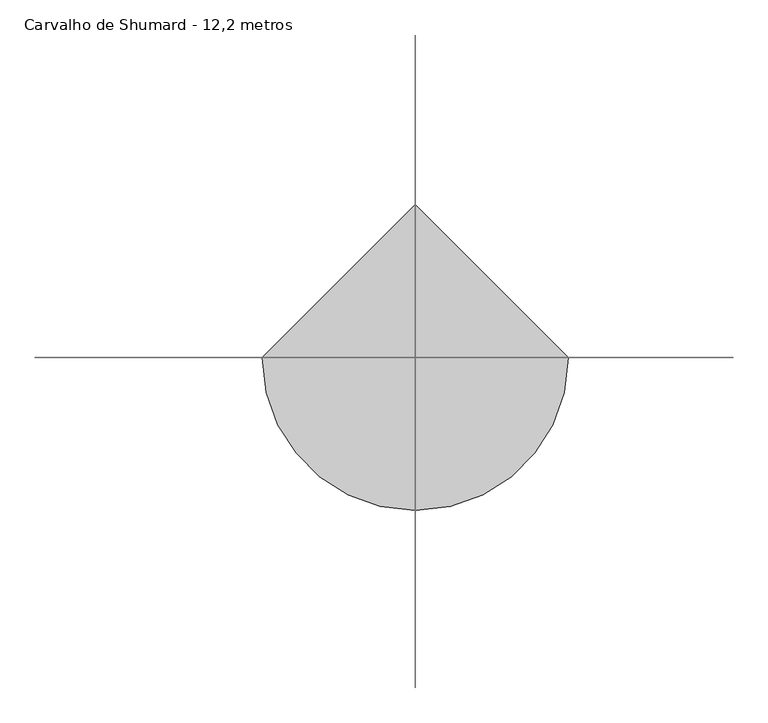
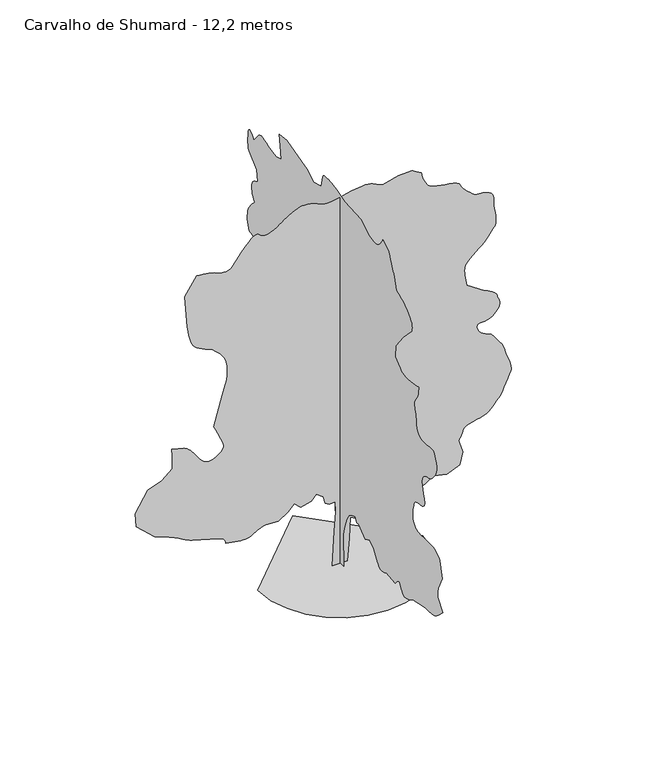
"""IFC4 building model written with IfcOpenShell, lengths in millimetres: geographic element geometry, RPC Árvore - Outono : Carvalho de Shumard - 12,2 metros."""

from ifc_helpers import new_model, si_unit, origin, place, context, project, spatial, triangles, source, transform, mapped, element, save


def carvalho_de_shumard_12_2_metros_a262d815(model_context):
    return source(origin(), model_context, "Body", "Tessellation", [
        triangles([(-0.0022625, 219.6430976, 0.0114771), (-0.0022625, -202.2794772, 0.0114771), (-0.0022625, -165.5900743, 1045.6450413), (-0.0022625, -238.9678628, 1357.501878), (-0.0022625, -349.0363624, 1651.0131775), (-0.0022625, -477.4462206, 1852.8008606), (-0.0022625, -624.2017977, 1944.5243317), (-0.0022625, -807.646269, 2017.9021202), (-0.0022625, -881.0241302, 1852.8008606), (-0.0022625, -1009.4364956, 1889.4897549), (-0.0022625, -1156.1920727, 1742.7340324), (-0.0022625, -1357.9797558, 1614.3242832), (-0.0022625, -1596.4563332, 1724.390966), (-0.0022625, -1816.5896988, 1577.6353889), (-0.0022625, -1963.347892, 1320.8129837), (-0.0022625, -1998.8599686, 1270.1093925), (-0.0022625, -2035.172723, 1221.8152473), (-0.0022625, -2073.0917747, 1178.3350525), (-0.0022625, -2113.4178017, 1142.073167), (-0.0022625, -2156.9513363, 1115.4391096), (-0.0022625, -2204.4982887, 1100.8397827), (-0.0022625, -2256.8565754, 1100.6771473), (-0.0022625, -2307.0772018, 1109.6110497), (-0.0022625, -2348.6333862, 1120.4664917), (-0.0022625, -2382.9686451, 1132.928231), (-0.0022625, -2411.5294018, 1146.673613), (-0.0022625, -2435.7565567, 1161.3821629), (-0.0022625, -2457.0962425, 1176.7312986), (-0.0022625, -2476.9897957, 1192.4006184), (-0.0022625, -2953.9455666, 1137.368585), (-0.0022625, -3000.966243, 1191.6508095), (-0.0022625, -3046.9957008, 1241.4419563), (-0.0022625, -3091.1191704, 1282.250948), (-0.0022625, -3132.3701408, 1309.5814018), (-0.0022625, -3169.7582657, 1318.9398422), (-0.0022625, -3202.3167435, 1305.8375896), (-0.0022625, -3229.1060966, 1265.7784069), (-0.0022625, -3256.0221863, 1208.176763), (-0.0022625, -3289.3434082, 1148.6509632), (-0.0022625, -3328.7392593, 1092.0151033), (-0.0022625, -3373.9553947, 1043.0779741), (-0.0022625, -3424.5851532, 1006.655924), (-0.0022625, -3480.3747711, 987.5629761), (-0.0022625, -3540.9678749, 990.6103918), (-0.0022625, -3601.7135857, 1008.4757984), (-0.0022625, -3658.6214493, 1030.1891533), (-0.0022625, -3712.3268921, 1055.1127047), (-0.0022625, -3763.4650497, 1082.6007797), (-0.0022625, -3812.6716393, 1112.0180248), (-0.0022625, -3860.5820869, 1142.7162237), (-0.0022625, -3907.8568176, 1174.0574793), (-0.0022625, -4568.2572052, 1302.4673012), (-0.0022625, -4650.6324097, 1302.6274658), (-0.0022625, -4731.8637886, 1303.7507984), (-0.0022625, -4810.8586761, 1306.8009029), (-0.0022625, -4886.4732468, 1312.7355698), (-0.0022625, -4957.6142532, 1322.5236351), (-0.0022625, -5023.1381607, 1337.1228893), (-0.0022625, -5081.9014343, 1357.501878), (-0.0022625, -5138.5299545, 1386.9699921), (-0.0022625, -5198.0553909, 1427.0265587), (-0.0022625, -5259.9957962, 1475.9103481), (-0.0022625, -5323.8680603, 1531.8524277), (-0.0022625, -5389.1634933, 1593.0911316), (-0.0022625, -5455.4245651, 1657.8578178), (-0.0022625, -5522.1681656, 1724.390966), (-0.0022625, -5265.3588409, 2017.9021202), (-0.0022625, -5257.7087265, 2072.8807411), (-0.0022625, -5251.3288834, 2127.5393234), (-0.0022625, -5247.5419052, 2181.5572472), (-0.0022625, -5247.5924835, 2234.6118576), (-0.0022625, -5252.7776321, 2286.3829708), (-0.0022625, -5264.3932022, 2336.5504028), (-0.0022625, -5283.6844666, 2384.7910629), (-0.0022625, -5485.4924973, 2806.7071701), (-0.0022625, -5357.0619644, 3320.3516899), (-0.0022625, -5347.0224609, 3334.5342545), (-0.0022625, -5317.0562668, 3370.8544212), (-0.0022625, -5267.544754, 3419.9848526), (-0.0022625, -5198.7675568, 3472.673497), (-0.0022625, -5111.054306, 3519.5671463), (-0.0022625, -5004.7369583, 3551.3887505), (-0.0022625, -4880.1189835, 3558.8359703), (-0.0022625, -4741.2681564, 3553.0662643), (-0.0022625, -4598.2742683, 3550.8041931), (-0.0022625, -4460.38908, 3551.1346962), (-0.0022625, -4336.9405106, 3553.0662643), (-0.0022625, -4237.2564789, 3555.6332588), (-0.0022625, -4170.614035, 3557.8700409), (-0.0022625, -4146.341098, 3558.8359703), (-0.0022625, -4132.1076645, 3568.5196815), (-0.0022625, -4095.4317055, 3595.8424324), (-0.0022625, -4045.2591866, 3638.2628082), (-0.0022625, -3990.588105, 3693.1882347), (-0.0022625, -3940.4411659, 3758.0514267), (-0.0022625, -3903.7393364, 3830.3106789), (-0.0022625, -3889.5061935, 3907.3739983), (-0.0022625, -3892.2002151, 3984.3864487), (-0.0022625, -3899.6727242, 4058.5266907), (-0.0022625, -3911.1609764, 4130.2522545), (-0.0022625, -3925.8772293, 4200.0465408), (-0.0022625, -3943.0081604, 4268.3917877), (-0.0022625, -3961.7148674, 4335.7711052), (-0.0022625, -3981.2346062, 4402.667894), (-0.0022625, -3997.2725807, 4422.2640816), (-0.0022625, -4015.2421234, 4441.35187), (-0.0022625, -4037.0750931, 4459.4740196), (-0.0022625, -4064.677478, 4476.1727097), (-0.0022625, -4099.9558479, 4490.9142517), (-0.0022625, -4144.8923492, 4503.2922752), (-0.0022625, -4201.3679718, 4512.7472214), (-0.0022625, -4269.6626404, 4518.5166367), (-0.0022625, -4343.4215103, 4525.252272), (-0.0022625, -4414.6136765, 4540.6545296), (-0.0022625, -4475.2067802, 4572.4255554), (-0.0022625, -4517.1952057, 4628.2657516), (-0.0022625, -4532.5213051, 4715.8769737), (-0.0022625, -4513.2300407, 4842.9346252), (-0.0022625, -4473.7071625, 4986.5892288), (-0.0022625, -4437.3869957, 5118.3747894), (-0.0022625, -4409.7337418, 5237.654718), (-0.0022625, -4396.2118927, 5343.7435913), (-0.0022625, -4402.2612328, 5436.0571426), (-0.0022625, -4433.3200928, 5513.9332031), (-0.0022625, -4494.8794167, 5576.7125107), (-0.0022625, -4570.3413803, 5620.6830826), (-0.0022625, -4640.3641411, 5647.6500412), (-0.0022625, -4706.1929718, 5665.2896622), (-0.0022625, -4769.1501755, 5681.3276367), (-0.0022625, -4830.4804436, 5703.465239), (-0.0022625, -4891.5054977, 5739.4299042), (-0.0022625, -4953.4970627, 5796.846167), (-0.0022625, -5016.6571609, 5869.9184509), (-0.0022625, -5076.9197617, 5947.7950928), (-0.0022625, -5129.1764557, 6030.7807251), (-0.0022625, -5168.2670929, 6119.2555573), (-0.0022625, -5189.0838455, 6213.4753876), (-0.0022625, -5186.4654007, 6313.8198441), (-0.0022625, -5155.2795135, 6420.5697235), (-0.0022625, -5117.6376251, 6521.5501877), (-0.0022625, -5092.1699936, 6603.8998123), (-0.0022625, -5068.6342209, 6667.0093323), (-0.0022625, -5036.7617477, 6710.2177414), (-0.0022625, -4986.2845963, 6732.9146118), (-0.0022625, -4906.908046, 6734.4145203), (-0.0022625, -4788.3905708, 6714.0808777), (-0.0022625, -4647.7857811, 6691.613063), (-0.0022625, -4512.6454834, 6687.1139191), (-0.0022625, -4388.3835915, 6700.6101883), (-0.0022625, -4280.5154663, 6732.0507111), (-0.0022625, -4194.4803108, 6781.4604858), (-0.0022625, -4135.6914574, 6848.8656738), (-0.0022625, -4109.6395592, 6934.214534), (-0.0022625, -4100.7183014, 7025.3583893), (-0.0022625, -4089.8654755, 7110.7072495), (-0.0022625, -4077.385714, 7191.2529144), (-0.0022625, -4063.6609703, 7267.9348618), (-0.0022625, -4048.9447174, 7341.7448914), (-0.0022625, -4033.5930382, 7413.6230621), (-0.0022625, -4017.9364357, 7484.5350128), (-0.0022625, -4002.6864944, 7535.6737518), (-0.0022625, -3990.3337601, 7586.9642258), (-0.0022625, -3983.7510223, 7638.5854935), (-0.0022625, -3985.8351974, 7690.6642914), (-0.0022625, -3999.483783, 7743.4035141), (-0.0022625, -4027.5436981, 7796.9310608), (-0.0022625, -4072.9633095, 7851.4242462), (-0.0022625, -4121.5091835, 7918.2951645), (-0.0022625, -4158.2107224, 8002.1446976), (-0.0022625, -4184.6184128, 8093.0600784), (-0.0022625, -4202.3847702, 8181.1029602), (-0.0022625, -4213.0852798, 8256.2855804), (-0.0022625, -4218.3210068, 8308.7201706), (-0.0022625, -4219.7188866, 8328.392807), (-0.0022625, -4192.65019, 8322.3431763), (-0.0022625, -4120.0348549, 8306.9917877), (-0.0022625, -4014.6575661, 8286.5058289), (-0.0022625, -3889.4044556, 8265.0798111), (-0.0022625, -3757.0854973, 8246.830925), (-0.0022625, -3630.5615341, 8235.9775177), (-0.0022625, -3522.6172508, 8236.6641037), (-0.0022625, -3431.498394, 8252.5491806), (-0.0022625, -3346.123954, 8282.871167), (-0.0022625, -3265.5788704, 8325.2406738), (-0.0022625, -3188.8969231, 8377.2177338), (-0.0022625, -3115.0868935, 8436.4385376), (-0.0022625, -3043.2087227, 8500.4375381), (-0.0022625, -2972.2964813, 8566.876506), (-0.0022625, -2990.6471054, 8952.1163635), (-0.0022625, -3394.2122978, 9465.761174), (-0.0022625, -3852.8299438, 9942.7035736), (-0.0022625, -3859.9975296, 10001.8488007), (-0.0022625, -3862.9964745, 10062.1369812), (-0.0022625, -3857.6337204, 10124.6622345), (-0.0022625, -3839.7659157, 10190.5419342), (-0.0022625, -3805.2247101, 10260.9201965), (-0.0022625, -3749.8164642, 10336.9155579), (-0.0022625, -3669.3728279, 10419.6721344), (-0.0022625, -3575.0262611, 10499.1754211), (-0.0022625, -3480.7049835, 10566.1992371), (-0.0022625, -3386.3587074, 10622.777179), (-0.0022625, -3292.0121407, 10671.0172577), (-0.0022625, -3197.6655739, 10713.0053925), (-0.0022625, -3103.3190071, 10750.825177), (-0.0022625, -3008.9724403, 10786.535788), (-0.0022625, -2981.4465042, 10880.6288818), (-0.0022625, -2953.7423813, 10973.0941681), (-0.0022625, -2925.7077553, 11062.3573242), (-0.0022625, -2897.1903099, 11146.8172852), (-0.0022625, -2868.0627274, 11224.8462433), (-0.0022625, -2838.0965332, 11294.8431335), (-0.0022625, -2807.1899895, 11355.2324707), (-0.0022625, -2772.9028381, 11421.0621735), (-0.0022625, -2735.1083427, 11502.2932617), (-0.0022625, -2696.9580551, 11589.6507202), (-0.0022625, -2661.7305542, 11673.779306), (-0.0022625, -2632.5776825, 11745.3784241), (-0.0022625, -2612.7274406, 11795.1695709), (-0.0022625, -2605.4075386, 11813.8509888), (-0.0022625, -2293.5479404, 11997.2828156), (-0.0022625, -2277.555748, 11965.6638153), (-0.0022625, -2259.9598743, 11933.1053375), (-0.0022625, -2239.1538769, 11898.6155823), (-0.0022625, -2213.5363998, 11861.2271667), (-0.0022625, -2181.5012913, 11819.9761963), (-0.0022625, -2141.4421085, 11773.9464478), (-0.0022625, -2091.7577866, 11722.1217041), (-0.0022625, -2031.9117302, 11677.2360718), (-0.0022625, -1963.4012318, 11650.6760651), (-0.0022625, -1887.6698078, 11639.3151306), (-0.0022625, -1806.1612656, 11640.1790314), (-0.0022625, -1720.3217377, 11650.1935364), (-0.0022625, -1631.594886, 11666.2820892), (-0.0022625, -1541.4242271, 11685.4204559), (-0.0022625, -1137.8463902, 11960.5804047), (-0.0022625, -257.3128368, 12015.6328583), (-0.0022625, -143.5556361, 12046.9216461), (-0.0022625, -31.2426242, 12077.2430511), (-0.0022625, 78.1820465, 12105.6331787), (-0.0022625, 183.2749686, 12131.1513885), (-0.0022625, 282.5921986, 12152.8070435), (-0.0022625, 374.6893387, 12169.6583405), (-0.0022625, 458.1194206, 12180.7390594), (-0.0022625, 540.3752283, 12189.1780792), (-0.0022625, 626.4842165, 12196.675296), (-0.0022625, 711.3070913, 12199.9797455), (-0.0022625, 789.7123346, 12195.9137146), (-0.0022625, 856.5631233, 12181.2739105), (-0.0022625, 906.7304827, 12152.8070435), (-0.0022625, 935.0776623, 12107.3365631), (-0.0022625, 1026.7985899, 11740.4729095), (-0.0022625, 1430.3764996, 11630.3935822), (-0.0022625, 1797.2654423, 11850.5266571), (-0.0022625, 2255.8780014, 11960.5804047), (-0.0022625, 2861.2512245, 12144.0378113), (-0.0022625, 3264.8164169, 12089.0109375), (-0.0022625, 3228.1401672, 11740.4729095), (-0.0022625, 3154.7623787, 11336.882428), (-0.0022625, 3448.2735329, 11245.1531433), (-0.0022625, 3741.784687, 11300.1811798), (-0.0022625, 3855.2699112, 11342.8297394), (-0.0022625, 3965.7050308, 11381.7424805), (-0.0022625, 4070.0405228, 11413.310321), (-0.0022625, 4165.2509903, 11433.7962799), (-0.0022625, 4248.2619118, 11439.5145355), (-0.0022625, 4316.0226013, 11426.7804291), (-0.0022625, 4365.4832451, 11391.9093018), (-0.0022625, 4640.6437752, 11061.7213165), (-0.0022625, 4703.1684471, 11134.820343), (-0.0022625, 4763.4566277, 11198.46297), (-0.0022625, 4819.2209564, 11243.1707062), (-0.0022625, 4868.274939, 11259.4883148), (-0.0022625, 4908.3317963, 11237.9349792), (-0.0022625, 4937.1538742, 11169.0566254), (-0.0022625, 4952.5058441, 11043.3712738), (-0.0022625, 4957.156723, 10903.7832825), (-0.0022625, 4956.038768, 10795.9654449), (-0.0022625, 4950.1164551, 10714.6064575), (-0.0022625, 4940.305426, 10654.4461761), (-0.0022625, 4927.6480591, 10610.169809), (-0.0022625, 4913.0338348, 10576.467215), (-0.0022625, 4897.478389, 10548.0770874), (-0.0022625, 4475.5625725, 10199.5134796), (-0.0022625, 4438.8610336, 9814.2997833), (-0.0022625, 4497.5481491, 9790.3826385), (-0.0022625, 4554.4304329, 9764.5586334), (-0.0022625, 4607.8053726, 9734.8726547), (-0.0022625, 4655.8937164, 9699.416098), (-0.0022625, 4696.9159218, 9656.2588486), (-0.0022625, 4729.118898, 9603.4684662), (-0.0022625, 4750.7231026, 9539.1136734), (-0.0022625, 4758.958065, 9468.3790375), (-0.0022625, 4753.7223381, 9397.6194031), (-0.0022625, 4737.2521225, 9326.8591873), (-0.0022625, 4711.7847816, 9256.0995529), (-0.0022625, 4679.5818054, 9185.3393372), (-0.0022625, 4642.9058464, 9114.5797028), (-0.0022625, 4603.9675255, 9043.819487), (-0.0022625, 4662.6799301, 8984.827739), (-0.0022625, 4719.9688751, 8925.6830933), (-0.0022625, 4774.3606133, 8866.2082352), (-0.0022625, 4824.4313942, 8806.250267), (-0.0022625, 4868.7068893, 8745.6574539), (-0.0022625, 4905.7645111, 8684.2763168), (-0.0022625, 4934.1546387, 8621.9039612), (-0.0022625, 4954.5388596, 8561.1582504), (-0.0022625, 4969.1536652, 8504.2500961), (-0.0022625, 4978.9391144, 8450.5446533), (-0.0022625, 4984.8608459, 8399.4064957), (-0.0022625, 4987.9112411, 8350.2001968), (-0.0022625, 4989.0291962, 8302.2897491), (-0.0022625, 4989.2070923, 8255.0147278), (-0.0022625, 4879.1277649, 7943.1529495), (-0.0022625, 4828.0657654, 7934.9685654), (-0.0022625, 4777.130793, 7924.8784836), (-0.0022625, 4726.5519035, 7910.8991043), (-0.0022625, 4676.4302536, 7891.1758896), (-0.0022625, 4626.9696098, 7863.7258209), (-0.0022625, 4578.2967087, 7826.6681992), (-0.0022625, 4530.5897369, 7778.046167), (-0.0022625, 4487.1525627, 7720.3508514), (-0.0022625, 4450.476313, 7657.8255981), (-0.0022625, 4419.3918732, 7591.3104721), (-0.0022625, 4392.8059959, 7521.5670547), (-0.0022625, 4369.6007263, 7449.4092499), (-0.0022625, 4348.6319481, 7375.6503799), (-0.0022625, 4328.8069954, 7301.103186), (-0.0022625, 4285.8529312, 7242.111438), (-0.0022625, 4244.6781189, 7182.9667923), (-0.0022625, 4207.0106506, 7123.4919342), (-0.0022625, 4174.6553581, 7063.5339661), (-0.0022625, 4149.3656227, 7002.941153), (-0.0022625, 4132.8956978, 6941.534436), (-0.0022625, 4126.9989647, 6879.1876602), (-0.0022625, 4145.3498795, 6383.8684753), (-0.0022625, 4188.3039436, 6379.5472275), (-0.0022625, 4229.478756, 6372.8121735), (-0.0022625, 4267.1462242, 6361.2477631), (-0.0022625, 4299.5018074, 6342.4901871), (-0.0022625, 4324.7912521, 6314.0744797), (-0.0022625, 4341.2611771, 6273.6618301), (-0.0022625, 4347.1323303, 6218.7872726), (-0.0022625, 4345.5312653, 6155.3475403), (-0.0022625, 4341.0579918, 6090.9671677), (-0.0022625, 4334.1444603, 6025.7734726), (-0.0022625, 4325.3249405, 5959.9187714), (-0.0022625, 4315.0566719, 5893.6071213), (-0.0022625, 4303.8224739, 5826.9646774), (-0.0022625, 4292.1054565, 5760.1699173), (-0.0022625, 4273.7545418, 5393.2806839), (-0.0022625, 4622.3181496, 5411.631308), (-0.0022625, 5007.5327179, 5485.0093872), (-0.0022625, 5089.5265503, 5457.2541046), (-0.0022625, 5168.1403564, 5428.0506546), (-0.0022625, 5240.0441071, 5395.949707), (-0.0022625, 5301.8060349, 5359.5275116), (-0.0022625, 5350.0978546, 5317.3359009), (-0.0022625, 5381.5383774, 5267.9261261), (-0.0022625, 5392.7725754, 5209.8232773), (-0.0022625, 5389.5698639, 5136.2423035), (-0.0022625, 5380.5721573, 5043.3956451), (-0.0022625, 5366.7968353, 4934.5104309), (-0.0022625, 5349.1322159, 4812.790535), (-0.0022625, 5328.5956787, 4681.4372154), (-0.0022625, 5306.1272827, 4543.6537651), (-0.0022625, 5282.7182465, 4402.667894), (-0.0022625, 5117.6120453, 3962.400872), (-0.0022625, 5027.4338287, 3911.8219826), (-0.0022625, 4938.704361, 3864.2673271), (-0.0022625, 4852.8723907, 3822.8128807), (-0.0022625, 4771.3613777, 3790.5084572), (-0.0022625, 4695.6453598, 3770.4038704), (-0.0022625, 4627.1219261, 3765.5492249), (-0.0022625, 4567.2659866, 3778.9693359), (-0.0022625, 4053.6211761, 3999.1027016), (-0.0022625, 3539.9766563, 3833.9962097), (-0.0022625, 3173.0877136, 3577.1865944), (-0.0022625, 2806.1987709, 3026.8405357), (-0.0022625, 2770.6916359, 2972.1438744), (-0.0022625, 2734.3967583, 2919.353492), (-0.0022625, 2696.4752357, 2870.4012474), (-0.0022625, 2656.139035, 2827.2437073), (-0.0022625, 2612.6004135, 2791.7874413), (-0.0022625, 2565.0713379, 2765.9643082), (-0.0022625, 2512.700116, 2751.6800056), (-0.0022625, 2460.4463287, 2746.9270981), (-0.0022625, 2411.4048454, 2747.2828903), (-0.0022625, 2362.0407074, 2751.1971863), (-0.0022625, 2308.8259323, 2757.0174706), (-0.0022625, 2248.2300671, 2763.1682579), (-0.0022625, 2176.7229492, 2768.0484833), (-0.0022625, 2090.7765965, 2770.0309204), (-0.0022625, 1998.5727768, 2763.0668106), (-0.0022625, 1910.2194489, 2743.5976501), (-0.0022625, 1825.0763901, 2713.7076141), (-0.0022625, 1742.5003258, 2675.4555885), (-0.0022625, 1661.8482719, 2630.9766174), (-0.0022625, 1582.4797153, 2582.3037163), (-0.0022625, 1503.7542881, 2531.54664), (-0.0022625, 1393.6876053, 2219.6898033), (-0.0022625, 1081.8332394, 1871.1465431), (-0.0022625, 1038.7799807, 1824.5095642), (-0.0022625, 988.9862904, 1778.8358986), (-0.0022625, 933.5780445, 1733.9627655), (-0.0022625, 873.678721, 1689.7327618), (-0.0022625, 810.4091091, 1645.9857227), (-0.0022625, 744.8926867, 1602.5563969), (-0.0022625, 678.2553297, 1559.2895611), (-0.0022625, 568.1886469, 1944.5243317), (-0.0022625, 384.7416321, 2201.3465916), (-0.0022625, 311.3663507, 2036.245332), (-0.0022625, 256.3317375, 1779.4229267), (-0.0022625, 237.9877991, 1320.8129837), (-0.0022625, 201.2983961, 678.7560259), (227.2985896, 0.0005818, 0.0290512), (-249.6563274, 0.0005818, 0.0290512), (-176.2792837, 0.0005163, 1100.6948788), (-139.5901351, 0.0004777, 1742.7519093), (-157.9345822, 0.0004581, 2072.9519577), (-341.3808703, 0.0004592, 2054.608746), (-469.7907286, 0.000455, 2127.9865345), (-524.8227983, 0.0004406, 2366.4631119), (-744.9587437, 0.0004319, 2513.218689), (-891.7143208, 0.0004417, 2348.1174294), (-1221.9118984, 0.0004473, 2256.3964291), (-1423.7020523, 0.0004364, 2439.8409004), (-1625.4897354, 0.0004483, 2238.0507465), (-1919.0008896, 0.0004592, 2054.608746), (-2359.270237, 0.0004581, 2072.9519577), (-2579.4062187, 0.0004637, 1981.2284866), (-2626.6812401, 0.0004658, 1946.0925499), (-2674.5913971, 0.0004679, 1912.3976589), (-2723.7979866, 0.0004697, 1881.5927078), (-2774.9361443, 0.0004711, 1855.1187424), (-2828.6415871, 0.0004725, 1834.4220406), (-2885.5241615, 0.0004732, 1820.9436481), (-2946.2951614, 0.0004735, 1816.1296978), (-3014.004982, 0.0004735, 1818.2698288), (-3090.3820061, 0.0004732, 1824.2579807), (-3173.9771942, 0.0004725, 1833.4587273), (-3263.3420883, 0.0004718, 1845.2241428), (-3357.0279396, 0.0004711, 1858.9160397), (-3453.6362869, 0.00047, 1873.8915791), (-3551.6683846, 0.0004693, 1889.5074863), (-3556.192527, 0.0004669, 1928.7100353), (-3564.4527786, 0.0004644, 1967.2696003), (-3580.0588028, 0.0004623, 2004.5482841), (-3606.7461273, 0.0004602, 2039.9001961), (-3648.2005737, 0.0004581, 2072.6851135), (-3708.0823837, 0.0004564, 2102.2599072), (-3790.1270851, 0.000455, 2127.9865345), (-4597.2827591, 0.0004406, 2366.4631119), (-4663.1883293, 0.0004396, 2387.3759342), (-4733.5668823, 0.0004378, 2416.9507278), (-4806.1822174, 0.0004357, 2452.6229691), (-4878.822551, 0.0004333, 2491.825518), (-4949.2013947, 0.0004308, 2531.9913803), (-5015.1066742, 0.0004287, 2570.5611191), (-5074.2513199, 0.0004266, 2604.9500084), (-5137.8433685, 0.0004245, 2637.9915962), (-5216.8385468, 0.0004224, 2673.9306816), (-5308.668988, 0.00042, 2712.2844452), (-5410.7674072, 0.0004179, 2752.5441971), (-5520.5671005, 0.0004154, 2794.2782776), (-5635.5013641, 0.0004126, 2836.9527077), (-5753.0023315, 0.0004101, 2880.1102478), (-6321.6740158, 0.0003783, 3412.1056824), (-6358.3502655, 0.000352, 3852.3724136), (-5973.1354065, 0.0003149, 4476.0709717), (-5532.8686752, 0.0003051, 4641.1774635), (-5202.6562729, 0.0002886, 4916.3377029), (-5202.6562729, 0.0002637, 5338.2538101), (-5221.006897, 0.0002504, 5558.3868851), (-4835.7670395, 0.000256, 5466.6837616), (-4792.4063141, 0.0002578, 5438.7000046), (-4748.2066864, 0.0002595, 5407.9972275), (-4702.4315735, 0.0002616, 5371.8546661), (-4654.2414917, 0.0002641, 5327.5027222), (-4602.8489891, 0.0002676, 5272.2723724), (-4547.4407433, 0.0002718, 5203.3928558), (-4487.2290115, 0.0002767, 5118.1201538), (-4426.2036667, 0.000282, 5028.5523651), (-4367.4148132, 0.0002869, 4949.5571869), (-4308.6515396, 0.0002907, 4882.7624268), (-4247.6264854, 0.0002939, 4829.7432793), (-4182.1022873, 0.0002963, 4792.1522598), (-4109.8427444, 0.0002974, 4771.564563), (-4028.6113655, 0.0002974, 4769.5821259), (-3939.7801598, 0.0002963, 4789.9154778), (-3850.3138184, 0.0002939, 4831.0902901), (-3766.2863892, 0.0002904, 4887.032515), (-3693.823661, 0.0002865, 4951.641362), (-3638.9999725, 0.0002827, 5018.8174942), (-3607.915242, 0.0002788, 5082.4607025), (-3606.6952583, 0.0002756, 5136.4713593), (-3628.2994629, 0.0002721, 5194.8788406), (-3660.5024391, 0.0002676, 5273.4920654), (-3701.5246445, 0.0002616, 5368.9571686), (-3749.5876991, 0.0002553, 5477.9179596), (-3802.9626389, 0.0002483, 5596.9694138), (-3859.8702118, 0.0002406, 5722.7565033), (-3918.5573273, 0.0002329, 5851.8980392), (-3661.7224228, 0.0001772, 6787.4845367), (-3626.5966599, 0.0001709, 6893.3699341), (-3592.8940659, 0.0001646, 6997.8321625), (-3562.0892601, 0.0001587, 7099.3968933), (-3535.6051208, 0.0001527, 7196.6159592), (-3514.9159767, 0.0001475, 7288.064447), (-3501.4449966, 0.0001422, 7372.2953522), (-3496.6159309, 0.000138, 7447.884343), (-3497.8612038, 0.0001334, 7521.6182144), (-3501.9789757, 0.0001289, 7599.875647), (-3509.6293808, 0.000124, 7680.3701523), (-3521.4478455, 0.0001191, 7760.8646576), (-3538.0703773, 0.0001145, 7839.0970917), (-3560.1574013, 0.00011, 7912.8559616), (-3588.3446342, 0.0001061, 7979.8541977), (-3624.613932, 0.0001023, 8042.2265533), (-3669.5251442, 9.88e-05, 8103.6332703), (-3721.6801003, 9.53e-05, 8164.2266647), (-3779.6047623, 9.14e-05, 8224.1846329), (-3841.8500908, 8.79e-05, 8283.6339111), (-3906.9926262, 8.44e-05, 8342.8035553), (-3973.584201, 8.09e-05, 8401.7958847), (-4079.2667038, 7.85e-05, 8445.1054504), (-4182.2040253, 7.57e-05, 8488.8987076), (-4279.7021439, 7.32e-05, 8533.6826019), (-4369.0414581, 7.04e-05, 8579.8902466), (-4447.4264992, 6.76e-05, 8628.0291687), (-4512.213533, 6.44e-05, 8678.5574799), (-4560.6068001, 6.13e-05, 8731.9832886), (-4598.6809296, 5.71e-05, 8803.226033), (-4633.8828506, 5.15e-05, 8899.8090912), (-4665.5265587, 4.48e-05, 9011.1592712), (-4693.0272057, 3.78e-05, 9126.6778015), (-4715.6990776, 3.12e-05, 9235.7914902), (-4732.931456, 2.59e-05, 9327.8759857), (-4744.0383362, 2.21e-05, 9392.3830948), (-4817.4161247, -3.92e-05, 10419.6721344), (-4450.527182, -7.32e-05, 10988.3444), (-4352.4953751, -7.25e-05, 10976.4241974), (-4255.9123169, -7.18e-05, 10963.6900909), (-4162.2011765, -7.08e-05, 10949.3549194), (-4072.8362823, -6.97e-05, 10932.6303589), (-3989.2410942, -6.86e-05, 10912.6792511), (-3912.8893593, -6.72e-05, 10888.7109467), (-3845.1795387, -6.55e-05, 10859.939447), (-3776.3258926, -6.37e-05, 10832.1330048), (-3698.8306229, -6.27e-05, 10812.6644257), (-3617.497506, -6.2e-05, 10803.1336121), (-3537.1047386, -6.23e-05, 10805.1660461), (-3462.5069664, -6.3e-05, 10820.3651184), (-3398.482386, -6.48e-05, 10850.3063141), (-3349.8603539, -6.76e-05, 10896.6406952), (-3056.3491997, -9.07e-05, 11281.8555542), (-2977.9641586, -9.6e-05, 11371.601239), (-2900.8246811, -0.0001012, 11457.3320526), (-2826.2777779, -0.0001058, 11535.0552155), (-2755.5687218, -0.0001096, 11600.7326019), (-2689.9939453, -0.0001128, 11650.3714325), (-2630.8492996, -0.0001145, 11679.9300934), (-2579.4062187, -0.0001149, 11685.4460358), (-2538.0075829, -0.0001138, 11671.6445526), (-2504.3128372, -0.0001124, 11649.1761566), (-2472.5444275, -0.000111, 11622.8696228), (-2436.9256714, -0.0001096, 11597.5293091), (-2391.6790146, -0.0001082, 11577.9339935), (-2331.0324257, -0.0001079, 11568.9612854), (-2249.2035542, -0.0001082, 11575.3667084), (-2151.4359753, -0.00011, 11603.1975677), (-2051.1038727, -0.0001124, 11649.6086884), (-1954.619791, -0.0001159, 11706.3133667), (-1868.4065941, -0.0001194, 11764.9237427), (-1798.8794426, -0.0001226, 11817.1298584), (-1752.4584389, -0.0001247, 11854.542691), (-1735.5564182, -0.0001257, 11868.8778625), (-1714.8597164, -0.0001264, 11882.1456573), (-1659.8251396, -0.0001285, 11916.5842529), (-1581.0462273, -0.0001313, 11964.1894867), (-1489.1092518, -0.0001345, 12016.9292908), (-1394.6076073, -0.0001373, 12066.7715973), (-1308.1275661, -0.0001398, 12105.7099182), (-1240.2575809, -0.0001408, 12125.7121857), (-1175.8645638, -0.0001412, 12130.1607513), (-1095.7488144, -0.0001412, 12127.5167267), (-1004.4014832, -0.0001405, 12117.5289642), (-906.3136477, -0.0001394, 12099.8126038), (-805.9815451, -0.000138, 12074.090918), (-707.8936369, -0.0001359, 12040.0336945), (-616.5463057, -0.0001334, 11997.3083954), (-519.3684073, -0.0001313, 11962.4361053), (-402.9373964, -0.0001306, 11949.7019989), (-270.4608533, -0.0001306, 11955.4214172), (-125.1499373, -0.000132, 11975.9073761), (29.7882844, -0.0001338, 12007.4496368), (191.1444556, -0.0001362, 12046.386795), (355.7107369, -0.0001387, 12089.0109375), (469.3052567, -0.0001398, 12104.4134857), (580.4953812, -0.0001405, 12117.9091736), (686.8715916, -0.0001412, 12127.5167267), (786.0294926, -0.0001412, 12131.3804443), (875.5569494, -0.0001412, 12127.5167267), (953.0548353, -0.0001401, 12114.0466187), (1016.1109428, -0.0001387, 12089.0109375), (1069.0029179, -0.0001369, 12059.7057495), (1118.0467993, -0.0001355, 12034.2631165), (1163.8806295, -0.0001341, 12011.9981964), (1207.1498634, -0.0001331, 11992.3261414), (1248.4900726, -0.000132, 11974.5597839), (1288.54911, -0.000131, 11958.089859), (1327.9653088, -0.0001299, 11942.2559418), (1804.9209343, -0.0001376, 12070.6853119), (2226.8445992, -0.0001387, 12089.0109375), (2520.3557533, -0.0001289, 11923.9303162), (2524.5799141, -0.0001264, 11880.4934326), (2530.5708275, -0.0001236, 11835.9380127), (2540.0891418, -0.0001208, 11789.14552), (2554.9045166, -0.000118, 11738.9730011), (2576.7883553, -0.0001145, 11684.3274994), (2607.4661339, -0.000111, 11624.0393188), (2648.768264, -0.0001072, 11557.0410828), (2690.2735794, -0.0001033, 11495.6855255), (2724.713047, -0.0001009, 11450.3929413), (2758.5170883, -9.88e-05, 11416.9705627), (2798.0908356, -9.7e-05, 11391.248877), (2849.8644196, -9.6e-05, 11369.0339539), (2920.2432632, -9.46e-05, 11346.2097656), (3015.6572067, -9.28e-05, 11318.5568024), (3133.2599121, -9.14e-05, 11291.9200562), (3260.1649567, -9e-05, 11271.7143127), (3387.7310074, -8.9e-05, 11253.0840546), (3507.2655716, -8.76e-05, 11231.2760834), (3610.1011551, -8.58e-05, 11201.437207), (3687.5964249, -8.34e-05, 11158.7374878), (3731.0841774, -7.99e-05, 11098.4237274), (3763.2362846, -7.57e-05, 11028.1977814), (3810.7909401, -7.15e-05, 10958.9368927), (3871.1552788, -6.72e-05, 10890.4899078), (3941.8134659, -6.34e-05, 10822.6533508), (4020.1729271, -5.92e-05, 10755.3249023), (4103.6410881, -5.53e-05, 10688.3266663), (4189.7018234, -5.11e-05, 10621.4551666), (4310.7357147, -5.04e-05, 10609.0512726), (4426.788224, -4.97e-05, 10592.9627197), (4532.9026772, -4.83e-05, 10569.4781067), (4624.0721123, -4.62e-05, 10534.9371918), (4695.3657257, -4.31e-05, 10485.6285736), (4741.8018448, -3.92e-05, 10417.8675934), (4758.3735077, -3.4e-05, 10327.9440125), (4759.4408844, -2.84e-05, 10234.3090302), (4762.4401199, -2.35e-05, 10156.0510162), (4767.0404205, -1.96e-05, 10090.6538452), (4772.9371536, -1.65e-05, 10035.5258148), (4779.7742363, -1.37e-05, 9988.0728973), (4787.2467453, -1.09e-05, 9945.7789673), (4795.0750465, -8.8e-06, 9906.0279053), (4810.4267258, -3.2e-06, 9812.0115509), (4823.5163338, 2.5e-06, 9719.9020569), (4832.1323776, 7.7e-06, 9631.6556992), (4834.0133675, 1.26e-05, 9549.2037552), (4826.8966507, 1.72e-05, 9474.4280869), (4808.5457359, 2.1e-05, 9409.2855515), (4776.7241318, 2.42e-05, 9355.7074265), (4736.1338768, 2.73e-05, 9304.3146332), (4692.3156212, 3.08e-05, 9245.5263611), (4644.3545952, 3.47e-05, 9180.9680923), (4591.2337097, 3.85e-05, 9112.2414734), (4532.0384857, 4.27e-05, 9040.9475693), (4465.7771233, 4.73e-05, 8968.6880264), (4391.484565, 5.15e-05, 8897.0894897), (4305.2203537, 5.6e-05, 8823.2288818), (4209.0183769, 6.06e-05, 8744.2337036), (4110.8595428, 6.55e-05, 8661.7061829), (4018.8259163, 7.04e-05, 8577.2723831), (3940.8984055, 7.57e-05, 8492.4822098), (3885.1090782, 8.06e-05, 8409.0140488), (3859.4891304, 8.55e-05, 8328.4178055), (3855.3716492, 9e-05, 8248.7116241), (3858.0148018, 9.49e-05, 8167.0985825), (3866.2497643, 9.98e-05, 8083.8844757), (3878.9582909, 0.0001051, 7999.3745178), (3895.0724236, 0.00011, 7913.9239197), (3913.3977585, 0.0001152, 7827.8123154), (3932.8669189, 0.0001205, 7741.3954971), (4483.2129776, 0.0001422, 7374.5068451), (4504.5375481, 0.0001429, 7364.9754501), (4559.5900017, 0.0001443, 7338.7706543), (4634.8232002, 0.0001468, 7299.400383), (4716.8173233, 0.0001496, 7250.4225586), (4792.075811, 0.0001531, 7195.3195267), (4847.1029755, 0.0001562, 7137.6747894), (4868.4528351, 0.0001597, 7080.9956909), (4879.890509, 0.0001629, 7027.4425644), (4906.0947235, 0.000166, 6973.9150177), (4934.8662231, 0.0001695, 6915.8889084), (4954.0051712, 0.0001737, 6848.8656738), (4951.3367294, 0.0001783, 6768.3711685), (4914.6604797, 0.0001842, 6669.9324097), (4831.7512962, 0.0001916, 6549.0002563), (4717.4018806, 0.0001975, 6446.0879333), (4599.8500443, 0.0002007, 6392.9417587), (4487.1272736, 0.0002021, 6371.8715332), (4387.2144768, 0.0002024, 6365.2376358), (4308.1687202, 0.0002031, 6355.4016083), (4257.996492, 0.0002049, 6324.6982498), (4244.7289879, 0.0002091, 6255.4891022), (4263.8167763, 0.000214, 6169.1740219), (4303.1361786, 0.0002182, 6097.2958511), (4359.2815887, 0.0002221, 6037.439621), (4428.9232681, 0.0002249, 5987.2165237), (4508.6806091, 0.0002273, 5944.2115906), (4595.1480057, 0.0002298, 5906.0360138), (4684.9957191, 0.0002319, 5870.2492447), (4774.7925636, 0.0002385, 5756.6619919), (4860.9041679, 0.0002452, 5645.4647095), (4939.6194214, 0.0002515, 5539.0962021), (5007.2786636, 0.0002574, 5439.9458588), (5060.1702026, 0.000263, 5350.4030685), (5094.6099609, 0.0002676, 5272.9077988), (5106.9115356, 0.0002711, 5209.8488571), (5121.9077133, 0.0002756, 5134.4377625), (5159.3461258, 0.0002823, 5026.6205063), (5207.9937378, 0.0002897, 4898.9021393), (5256.6663483, 0.0002977, 4763.8127106), (5294.1053421, 0.0003054, 4633.8572708), (5309.0753586, 0.0003124, 4521.541452), (5290.3689423, 0.0003173, 4439.394722), (5246.880899, 0.0003219, 4358.2647903), (5196.3525879, 0.0003285, 4248.566835), (5140.6647079, 0.0003362, 4122.169899), (5081.7746979, 0.0003439, 3990.9947662), (5021.6132538, 0.0003513, 3866.8599014), (4962.0878174, 0.0003576, 3761.6605087), (4905.1290848, 0.0003622, 3687.2659218), (4849.898735, 0.0003657, 3628.324752), (4793.3466637, 0.0003695, 3563.9446701), (4734.2531776, 0.0003734, 3497.6071495), (4671.3215538, 0.0003772, 3432.8965645), (4603.2303612, 0.0003807, 3373.3199684), (4528.7343269, 0.0003839, 3322.4102852), (4446.5114388, 0.000386, 3283.6754402), (4349.3438232, 0.0003877, 3254.9545189), (4237.4087952, 0.0003895, 3229.1313858), (4120.6449921, 0.0003909, 3202.3423233), (4009.0404671, 0.0003926, 3170.7239044), (3912.5082779, 0.0003951, 3130.4641525), (3840.9858994, 0.0003982, 3077.6737701), (3804.4619659, 0.0004024, 3008.5152008), (3784.8913582, 0.0004066, 2939.2040245), (3760.1864708, 0.0004098, 2885.2953964), (3734.1851509, 0.0004122, 2841.9852493), (3710.7764053, 0.0004147, 2804.419519), (3693.7472122, 0.0004168, 2767.8450073), (3687.0118675, 0.0004193, 2727.4070686), (3694.4082184, 0.0004221, 2678.3277969), (3804.4619659, 0.0004431, 2329.7742176), (3712.7335533, 0.0004669, 1926.1963806), (3309.1683609, 0.0004767, 1761.0975918), (2905.5778793, 0.0004714, 1852.8185921), (2502.0100708, 0.0004865, 1595.9963322), (2208.4987713, 0.0004767, 1761.0975918), (1786.5752518, 0.0004658, 1944.5395924), (1758.9270847, 0.0004669, 1928.4431911), (1730.4731529, 0.0004679, 1910.0975086), (1700.4153946, 0.0004693, 1887.2606758), (1667.9532772, 0.0004711, 1857.6858822), (1632.2785652, 0.0004732, 1819.1237011), (1592.5955223, 0.0004763, 1769.3325542), (1548.0986744, 0.0004802, 1706.063015), (1501.4616955, 0.000484, 1639.5832066), (1455.7880299, 0.0004876, 1580.8072884), (1410.9175129, 0.0004907, 1528.449147), (1366.6875092, 0.0004935, 1481.2223785), (1322.937854, 0.000496, 1437.8490086), (1279.5109989, 0.0004984, 1397.0426331), (1236.2443085, 0.0005009, 1357.5197548), (1291.2764145, 0.000524, 972.2850569), (1259.6683147, 0.0005247, 960.6798059), (1227.0969017, 0.000525, 950.1954168), (1192.6014055, 0.0005257, 941.9604544), (1155.2186583, 0.0005261, 937.0931643), (1113.9827305, 0.0005261, 936.7195679), (1067.9328524, 0.0005257, 941.9604544), (1016.1109428, 0.000525, 953.9393017), (962.1463589, 0.0005236, 973.9422232), (910.1083288, 0.0005222, 1001.6463461), (859.6741253, 0.0005201, 1035.7681005), (810.5234917, 0.0005177, 1075.0241346), (762.3360987, 0.0005152, 1118.1307331), (714.7917624, 0.0005124, 1163.8043987), (667.5651392, 0.0005096, 1210.7615616), (319.0192992, 0.0004988, 1394.2086491), (282.3329484, 0.000539, 715.4627243), (-2557.3444839, 0.0, 0.0), (-2489.7390175, -585.9752066, 0.0), (-2297.1926308, -1124.0985374, 0.0), (-1995.1237141, -1598.9547272, 0.0), (-1598.9547272, -1995.1237141, 0.0), (-1124.0985374, -2297.19016, 0.0), (-585.9752066, -2489.7390175, 0.0), (0.0001118, -2557.3444839, 0.0), (585.9752066, -2489.7390175, 0.0), (1124.0985374, -2297.1926308, 0.0), (1598.9547272, -1995.1237141, 0.0), (1995.1237141, -1598.9547272, 0.0), (2297.1926308, -1124.0985374, 0.0), (2489.7390175, -585.9752066, 0.0), (2557.3444839, 0.0002235, 0.0), (-0.0003354, 2557.3444839, 0.0)], [[407, 408, 409], [173, 174, 175], [406, 407, 409], [219, 220, 221], [1, 2, 3], [414, 1, 3], [413, 414, 3], [413, 3, 4], [412, 413, 4], [412, 4, 5], [255, 256, 257], [219, 221, 222], [65, 66, 67], [405, 406, 409], [8, 9, 10], [219, 222, 223], [404, 405, 409], [64, 65, 67], [412, 5, 6], [411, 412, 6], [403, 404, 409], [219, 223, 224], [172, 173, 175], [172, 175, 176], [171, 172, 176], [171, 176, 177], [170, 171, 177], [254, 255, 257], [254, 257, 258], [402, 403, 409], [63, 64, 67], [218, 219, 224], [401, 402, 409], [218, 224, 225], [217, 218, 225], [312, 313, 314], [216, 217, 225], [216, 225, 226], [170, 177, 178], [169, 170, 178], [168, 169, 178], [167, 168, 178], [167, 178, 179], [166, 167, 179], [166, 179, 180], [165, 166, 180], [11, 12, 13], [216, 226, 227], [215, 216, 227], [400, 401, 409], [400, 409, 410], [399, 400, 410], [29, 30, 31], [62, 63, 67], [214, 215, 227], [214, 227, 228], [410, 411, 6], [410, 6, 7], [165, 180, 181], [164, 165, 181], [312, 314, 315], [61, 62, 67], [213, 214, 228], [60, 61, 67], [59, 60, 67], [58, 59, 67], [57, 58, 67], [56, 57, 67], [55, 56, 67], [54, 55, 67], [53, 54, 67], [52, 53, 67], [52, 67, 68], [52, 68, 69], [253, 254, 258], [252, 253, 258], [29, 31, 32], [271, 272, 273], [271, 273, 274], [270, 271, 274], [270, 274, 275], [269, 270, 275], [268, 269, 275], [268, 275, 276], [268, 276, 277], [268, 277, 278], [268, 278, 279], [268, 279, 280], [268, 280, 281], [268, 281, 282], [268, 282, 283], [267, 268, 283], [266, 267, 283], [265, 266, 283], [264, 265, 283], [263, 264, 283], [262, 263, 283], [261, 262, 283], [260, 261, 283], [259, 260, 283], [259, 283, 284], [52, 69, 70], [212, 213, 228], [212, 228, 229], [211, 212, 229], [210, 211, 229], [209, 210, 229], [208, 209, 229], [10, 11, 13], [163, 164, 181], [163, 181, 182], [312, 315, 316], [51, 52, 70], [51, 70, 71], [51, 71, 72], [207, 208, 229], [207, 229, 230], [206, 207, 230], [366, 367, 368], [74, 75, 76], [74, 76, 77], [74, 77, 78], [74, 78, 79], [74, 79, 80], [74, 80, 81], [74, 81, 82], [74, 82, 83], [74, 83, 84], [74, 84, 85], [74, 85, 86], [73, 74, 86], [73, 86, 87], [73, 87, 88], [72, 73, 88], [51, 72, 88], [51, 88, 89], [51, 89, 90], [51, 90, 91], [51, 91, 92], [51, 92, 93], [50, 51, 93], [49, 50, 93], [48, 49, 93], [47, 48, 93], [46, 47, 93], [45, 46, 93], [44, 45, 93], [43, 44, 93], [42, 43, 93], [41, 42, 93], [40, 41, 93], [39, 40, 93], [38, 39, 93], [37, 38, 93], [36, 37, 93], [35, 36, 93], [35, 93, 94], [34, 35, 94], [34, 94, 95], [34, 95, 96], [33, 34, 96], [205, 206, 230], [258, 259, 284], [252, 258, 284], [29, 32, 33], [29, 33, 96], [29, 96, 97], [311, 312, 316], [190, 191, 192], [190, 192, 193], [190, 193, 194], [190, 194, 195], [190, 195, 196], [190, 196, 197], [190, 197, 198], [190, 198, 199], [190, 199, 200], [190, 200, 201], [190, 201, 202], [190, 202, 203], [190, 203, 204], [190, 204, 205], [189, 190, 205], [189, 205, 230], [189, 230, 231], [189, 231, 232], [189, 232, 233], [189, 233, 234], [410, 7, 8], [310, 311, 316], [310, 316, 317], [309, 310, 317], [308, 309, 317], [307, 308, 317], [306, 307, 317], [305, 306, 317], [304, 305, 317], [303, 304, 317], [302, 303, 317], [302, 317, 318], [301, 302, 318], [300, 301, 318], [299, 300, 318], [299, 318, 319], [298, 299, 319], [298, 319, 320], [162, 163, 182], [366, 368, 369], [298, 320, 321], [366, 369, 370], [366, 370, 371], [366, 371, 372], [366, 372, 373], [366, 373, 374], [366, 374, 375], [365, 366, 375], [364, 365, 375], [363, 364, 375], [362, 363, 375], [361, 362, 375], [360, 361, 375], [359, 360, 375], [358, 359, 375], [357, 358, 375], [356, 357, 375], [355, 356, 375], [354, 355, 375], [353, 354, 375], [352, 353, 375], [351, 352, 375], [350, 351, 375], [350, 375, 376], [234, 235, 236], [189, 234, 236], [188, 189, 236], [188, 236, 237], [188, 237, 238], [188, 238, 239], [188, 239, 240], [188, 240, 241], [188, 241, 242], [188, 242, 243], [188, 243, 244], [188, 244, 245], [188, 245, 246], [188, 246, 247], [188, 247, 248], [188, 248, 249], [188, 249, 250], [188, 250, 251], [188, 251, 252], [188, 252, 284], [187, 188, 284], [187, 284, 285], [187, 285, 286], [187, 286, 287], [187, 287, 288], [187, 288, 289], [187, 289, 290], [187, 290, 291], [187, 291, 292], [187, 292, 293], [187, 293, 294], [187, 294, 295], [187, 295, 296], [187, 296, 297], [187, 297, 298], [187, 298, 321], [187, 321, 322], [187, 322, 323], [187, 323, 324], [187, 324, 325], [187, 325, 326], [187, 326, 327], [187, 327, 328], [187, 328, 329], [187, 329, 330], [187, 330, 331], [187, 331, 332], [187, 332, 333], [187, 333, 334], [187, 334, 335], [186, 187, 335], [185, 186, 335], [184, 185, 335], [183, 184, 335], [182, 183, 335], [162, 182, 335], [161, 162, 335], [160, 161, 335], [159, 160, 335], [158, 159, 335], [157, 158, 335], [156, 157, 335], [155, 156, 335], [154, 155, 335], [153, 154, 335], [152, 153, 335], [151, 152, 335], [150, 151, 335], [350, 376, 377], [142, 143, 144], [142, 144, 145], [141, 142, 145], [141, 145, 146], [140, 141, 146], [140, 146, 147], [139, 140, 147], [138, 139, 147], [137, 138, 147], [136, 137, 147], [135, 136, 147], [134, 135, 147], [133, 134, 147], [133, 147, 148], [132, 133, 148], [131, 132, 148], [130, 131, 148], [129, 130, 148], [128, 129, 148], [127, 128, 148], [127, 148, 149], [126, 127, 149], [125, 126, 149], [125, 149, 150], [125, 150, 335], [124, 125, 335], [123, 124, 335], [122, 123, 335], [121, 122, 335], [120, 121, 335], [119, 120, 335], [118, 119, 335], [117, 118, 335], [116, 117, 335], [115, 116, 335], [114, 115, 335], [113, 114, 335], [112, 113, 335], [111, 112, 335], [110, 111, 335], [109, 110, 335], [108, 109, 335], [107, 108, 335], [106, 107, 335], [105, 106, 335], [104, 105, 335], [103, 104, 335], [102, 103, 335], [101, 102, 335], [100, 101, 335], [99, 100, 335], [98, 99, 335], [97, 98, 335], [29, 97, 335], [28, 29, 335], [27, 28, 335], [26, 27, 335], [25, 26, 335], [25, 335, 336], [25, 336, 337], [25, 337, 338], [349, 350, 377], [339, 340, 341], [338, 339, 341], [338, 341, 342], [338, 342, 343], [338, 343, 344], [338, 344, 345], [338, 345, 346], [348, 349, 377], [347, 348, 377], [346, 347, 377], [338, 346, 377], [20, 21, 22], [19, 20, 22], [19, 22, 23], [18, 19, 23], [17, 18, 23], [17, 23, 24], [17, 24, 25], [16, 17, 25], [15, 16, 25], [14, 15, 25], [14, 25, 338], [13, 14, 338], [10, 13, 338], [8, 10, 338], [8, 338, 377], [410, 8, 377], [398, 399, 410], [398, 410, 377], [397, 398, 377], [396, 397, 377], [395, 396, 377], [394, 395, 377], [393, 394, 377], [393, 377, 378], [392, 393, 378], [391, 392, 378], [390, 391, 378], [389, 390, 378], [389, 378, 379], [389, 379, 380], [388, 389, 380], [388, 380, 381], [387, 388, 381], [387, 381, 382], [386, 387, 382], [386, 382, 383], [385, 386, 383], [384, 385, 383], [472, 473, 474], [415, 416, 417], [793, 415, 417], [792, 793, 417], [792, 417, 418], [776, 777, 778], [776, 778, 779], [776, 779, 780], [776, 780, 781], [776, 781, 782], [776, 782, 783], [776, 783, 784], [776, 784, 785], [776, 785, 786], [776, 786, 787], [776, 787, 788], [776, 788, 789], [443, 444, 445], [471, 472, 474], [471, 474, 475], [471, 475, 476], [471, 476, 477], [471, 477, 478], [471, 478, 479], [471, 479, 480], [471, 480, 481], [471, 481, 482], [776, 789, 790], [776, 790, 791], [539, 540, 541], [759, 760, 761], [471, 482, 483], [424, 425, 426], [423, 424, 426], [539, 541, 542], [613, 614, 615], [756, 757, 758], [756, 758, 759], [755, 756, 759], [539, 542, 543], [538, 539, 543], [538, 543, 544], [538, 544, 545], [538, 545, 546], [538, 546, 547], [538, 547, 548], [538, 548, 549], [538, 549, 550], [754, 755, 759], [471, 483, 484], [538, 550, 551], [537, 538, 551], [443, 445, 446], [792, 418, 419], [536, 537, 551], [535, 536, 551], [534, 535, 551], [533, 534, 551], [532, 533, 551], [531, 532, 551], [530, 531, 551], [529, 530, 551], [528, 529, 551], [527, 528, 551], [526, 527, 551], [525, 526, 551], [524, 525, 551], [524, 551, 552], [523, 524, 552], [522, 523, 552], [522, 552, 553], [521, 522, 553], [520, 521, 553], [519, 520, 553], [613, 615, 616], [420, 421, 422], [419, 420, 422], [612, 613, 616], [612, 616, 617], [612, 617, 618], [612, 618, 619], [776, 791, 792], [776, 792, 419], [775, 776, 419], [774, 775, 419], [773, 774, 419], [772, 773, 419], [771, 772, 419], [770, 771, 419], [769, 770, 419], [768, 769, 419], [767, 768, 419], [766, 767, 419], [765, 766, 419], [764, 765, 419], [466, 467, 468], [466, 468, 469], [466, 469, 470], [465, 466, 470], [464, 465, 470], [463, 464, 470], [462, 463, 470], [461, 462, 470], [461, 470, 471], [461, 471, 484], [461, 484, 485], [461, 485, 486], [460, 461, 486], [459, 460, 486], [459, 486, 487], [458, 459, 487], [457, 458, 487], [456, 457, 487], [455, 456, 487], [454, 455, 487], [453, 454, 487], [452, 453, 487], [451, 452, 487], [451, 487, 488], [451, 488, 489], [450, 451, 489], [450, 489, 490], [449, 450, 490], [449, 490, 491], [449, 491, 492], [448, 449, 492], [518, 519, 553], [518, 553, 554], [611, 612, 619], [611, 619, 620], [611, 620, 621], [448, 492, 493], [754, 759, 761], [754, 761, 762], [753, 754, 762], [752, 753, 762], [501, 502, 503], [611, 621, 622], [763, 764, 419], [447, 448, 493], [517, 518, 554], [500, 501, 503], [611, 622, 623], [762, 763, 419], [762, 419, 422], [752, 762, 422], [751, 752, 422], [750, 751, 422], [749, 750, 422], [748, 749, 422], [747, 748, 422], [747, 422, 423], [427, 428, 429], [517, 554, 555], [426, 427, 429], [517, 555, 556], [516, 517, 556], [516, 556, 557], [516, 557, 558], [516, 558, 559], [516, 559, 560], [516, 560, 561], [516, 561, 562], [516, 562, 563], [516, 563, 564], [516, 564, 565], [516, 565, 566], [516, 566, 567], [516, 567, 568], [516, 568, 569], [516, 569, 570], [516, 570, 571], [515, 516, 571], [515, 571, 572], [514, 515, 572], [514, 572, 573], [442, 443, 446], [442, 446, 447], [442, 447, 493], [441, 442, 493], [440, 441, 493], [439, 440, 493], [438, 439, 493], [437, 438, 493], [436, 437, 493], [435, 436, 493], [434, 435, 493], [433, 434, 493], [432, 433, 493], [431, 432, 493], [430, 431, 493], [429, 430, 493], [426, 429, 493], [426, 493, 494], [423, 426, 494], [423, 494, 495], [747, 423, 495], [747, 495, 496], [746, 747, 496], [746, 496, 497], [746, 497, 498], [746, 498, 499], [746, 499, 500], [746, 500, 503], [746, 503, 504], [746, 504, 505], [746, 505, 506], [746, 506, 507], [746, 507, 508], [746, 508, 509], [746, 509, 510], [746, 510, 511], [746, 511, 512], [745, 746, 512], [745, 512, 513], [745, 513, 514], [745, 514, 573], [745, 573, 574], [745, 574, 575], [745, 575, 576], [745, 576, 577], [745, 577, 578], [745, 578, 579], [745, 579, 580], [745, 580, 581], [745, 581, 582], [745, 582, 583], [745, 583, 584], [745, 584, 585], [745, 585, 586], [745, 586, 587], [745, 587, 588], [745, 588, 589], [745, 589, 590], [745, 590, 591], [745, 591, 592], [745, 592, 593], [745, 593, 594], [745, 594, 595], [745, 595, 596], [745, 596, 597], [745, 597, 598], [745, 598, 599], [745, 599, 600], [745, 600, 601], [745, 601, 602], [745, 602, 603], [745, 603, 604], [745, 604, 605], [745, 605, 606], [745, 606, 607], [745, 607, 608], [745, 608, 609], [745, 609, 610], [745, 610, 611], [745, 611, 623], [745, 623, 624], [745, 624, 625], [745, 625, 626], [745, 626, 627], [745, 627, 628], [745, 628, 629], [745, 629, 630], [745, 630, 631], [745, 631, 632], [745, 632, 633], [745, 633, 634], [745, 634, 635], [745, 635, 636], [712, 713, 714], [647, 648, 649], [646, 647, 649], [645, 646, 649], [645, 649, 650], [644, 645, 650], [644, 650, 651], [643, 644, 651], [643, 651, 652], [642, 643, 652], [642, 652, 653], [642, 653, 654], [642, 654, 655], [642, 655, 656], [642, 656, 657], [642, 657, 658], [642, 658, 659], [642, 659, 660], [642, 660, 661], [642, 661, 662], [642, 662, 663], [642, 663, 664], [642, 664, 665], [642, 665, 666], [642, 666, 667], [642, 667, 668], [642, 668, 669], [642, 669, 670], [642, 670, 671], [642, 671, 672], [641, 642, 672], [641, 672, 673], [640, 641, 673], [640, 673, 674], [639, 640, 674], [639, 674, 675], [638, 639, 675], [637, 638, 675], [637, 675, 676], [636, 637, 676], [690, 691, 692], [690, 692, 693], [689, 690, 693], [688, 689, 693], [725, 726, 727], [725, 727, 728], [724, 725, 728], [724, 728, 729], [723, 724, 729], [723, 729, 730], [722, 723, 730], [722, 730, 731], [721, 722, 731], [721, 731, 732], [721, 732, 733], [721, 733, 734], [721, 734, 735], [721, 735, 736], [721, 736, 737], [721, 737, 738], [721, 738, 739], [721, 739, 740], [721, 740, 741], [721, 741, 742], [721, 742, 743], [721, 743, 744], [721, 744, 745], [720, 721, 745], [719, 720, 745], [718, 719, 745], [717, 718, 745], [716, 717, 745], [715, 716, 745], [714, 715, 745], [712, 714, 745], [711, 712, 745], [710, 711, 745], [709, 710, 745], [708, 709, 745], [707, 708, 745], [687, 688, 693], [636, 676, 677], [687, 693, 694], [686, 687, 694], [685, 686, 694], [685, 694, 695], [685, 695, 696], [685, 696, 697], [685, 697, 698], [685, 698, 699], [685, 699, 700], [685, 700, 701], [685, 701, 702], [685, 702, 703], [685, 703, 704], [684, 685, 704], [684, 704, 705], [684, 705, 706], [706, 707, 745], [684, 706, 745], [683, 684, 745], [682, 683, 745], [681, 682, 745], [680, 681, 745], [636, 677, 678], [745, 636, 678], [745, 678, 679], [680, 745, 679], [808, 809, 794], [807, 808, 794], [807, 794, 795], [806, 807, 795], [806, 795, 796], [806, 796, 797], [805, 806, 797], [804, 805, 797], [804, 797, 798], [804, 798, 799], [804, 799, 800], [804, 800, 801], [804, 801, 802], [804, 802, 803]], closed=False),
    ])


if __name__ == "__main__":
    model = new_model("IFC4")
    model_context = context("Model", 3, world=origin())
    ifc_project = project(units=[si_unit("LENGTHUNIT", "METRE", prefix="MILLI")], contexts=[model_context])
    site = spatial("IfcSite", under=ifc_project)
    building = spatial("IfcBuilding", under=site)
    placement = place(None, origin())
    carvalho_de_shumard_12_2_metros_shape = carvalho_de_shumard_12_2_metros_a262d815(model_context)
    element("IfcGeographicElement", 1, ObjectType="RPC Árvore - Outono : Carvalho de Shumard - 12,2 metros", at=placement, inside=building, context=model_context, shape_type="MappedRepresentation", body=[
        mapped(carvalho_de_shumard_12_2_metros_shape, transform((0.0, 0.0, 0.0), x_axis=(1.0, 0.0, 0.0), y_axis=(0.0, 1.0, 0.0), z_axis=(0.0, 0.0, 1.0))),
    ])
    save(model, "model.ifc")
